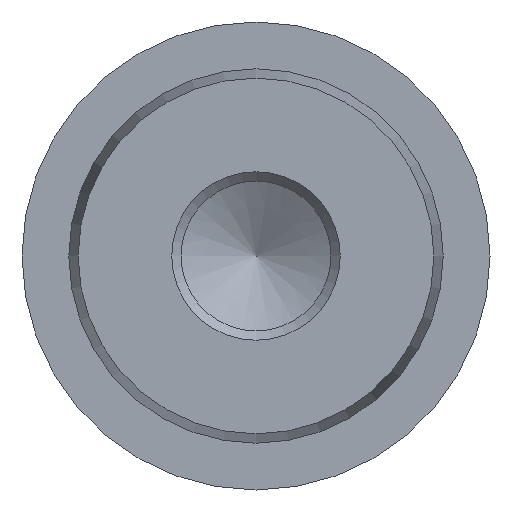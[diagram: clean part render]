
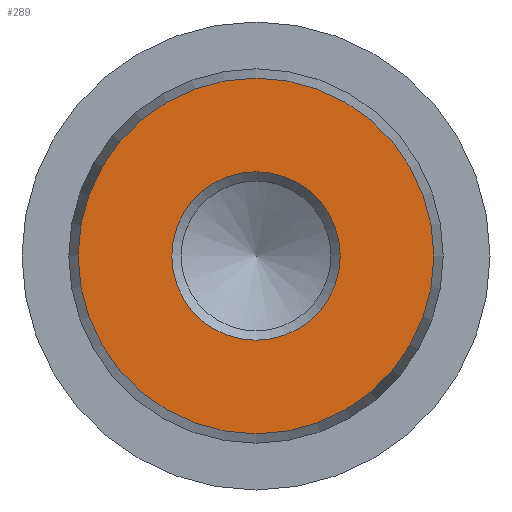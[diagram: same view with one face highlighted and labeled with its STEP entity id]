
A CAD part, left-side view. The second image highlights one B-rep face of the part: STEP entity #289.
In plain terms, the highlighted planar face has unit normal (-1, 0, 0).
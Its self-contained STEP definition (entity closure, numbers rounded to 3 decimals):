
#22=FACE_BOUND('',#94,.T.);
#26=PLANE('',#338);
#72=FACE_OUTER_BOUND('',#93,.T.);
#93=EDGE_LOOP('',(#210));
#94=EDGE_LOOP('',(#211));
#119=CIRCLE('',#337,4.5);
#120=CIRCLE('',#339,9.5);
#139=VERTEX_POINT('',#487);
#140=VERTEX_POINT('',#491);
#165=EDGE_CURVE('',#139,#139,#119,.T.);
#166=EDGE_CURVE('',#140,#140,#120,.T.);
#210=ORIENTED_EDGE('',*,*,#166,.F.);
#211=ORIENTED_EDGE('',*,*,#165,.T.);
#289=ADVANCED_FACE('',(#72,#22),#26,.T.);
#337=AXIS2_PLACEMENT_3D('',#489,#396,#397);
#338=AXIS2_PLACEMENT_3D('',#490,#398,#399);
#339=AXIS2_PLACEMENT_3D('',#492,#400,#401);
#396=DIRECTION('center_axis',(1.,0.,0.));
#397=DIRECTION('ref_axis',(0.,0.,-1.));
#398=DIRECTION('center_axis',(-1.,0.,0.));
#399=DIRECTION('ref_axis',(0.,0.,1.));
#400=DIRECTION('center_axis',(1.,0.,0.));
#401=DIRECTION('ref_axis',(0.,0.,-1.));
#487=CARTESIAN_POINT('',(0.,-4.5,0.));
#489=CARTESIAN_POINT('Origin',(0.,0.,0.));
#490=CARTESIAN_POINT('Origin',(0.,9.5,0.));
#491=CARTESIAN_POINT('',(0.,-9.5,0.));
#492=CARTESIAN_POINT('Origin',(0.,0.,0.));
